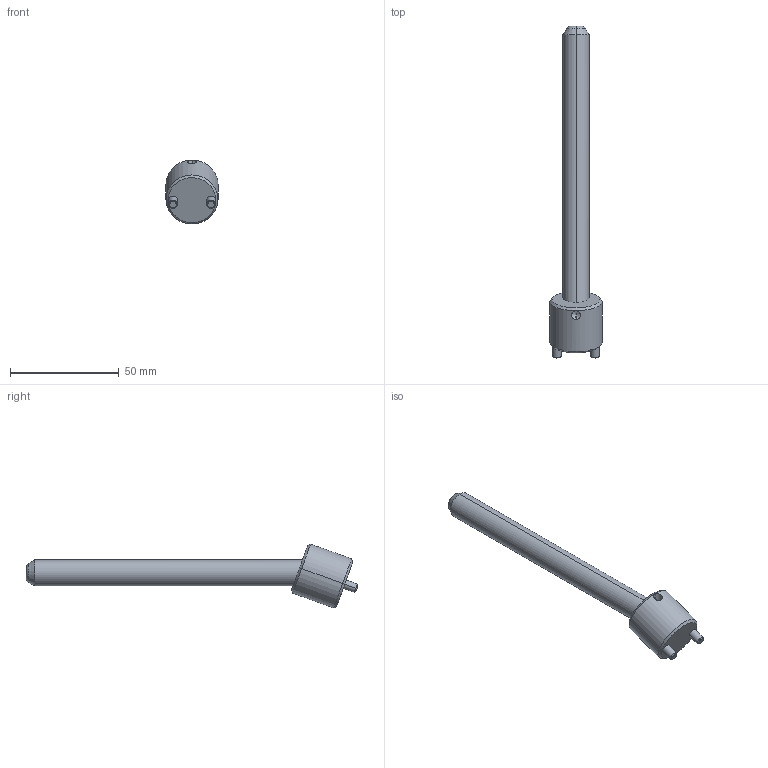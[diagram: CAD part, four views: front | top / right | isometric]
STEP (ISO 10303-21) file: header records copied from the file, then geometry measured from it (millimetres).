
FILE_DESCRIPTION(('CATIA V5 STEP Exchange'),'2;1');
FILE_NAME('C:\Users\Raffaele\Desktop\3D BOLEX\3D FILES CF BOLEX\19-INCLINED ASSEMBLY REF_CI\CI2012125.stp','2019-06-21T10:17:05+00:00',('none'),('none'),'CATIA Version 5 Release 20 GA (IN-10)','CATIA V5 STEP AP203','none');
FILE_SCHEMA(('CONFIG_CONTROL_DESIGN'));
Length unit declared in the file: millimetre
Products named in the file (1): CI2012125
Assembly tree (2 placements, depth 2):
  CI2012125
    #58
    #578
Bounding box: 24 x 152.68 x 29.39 mm (x, y, z)
Volume: 23855.5 mm3; surface area: 8899.2 mm2
Topology: 2 solids, 2 shells, 39 faces, 82 edges, 47 vertices
Faces by surface type: cone 14, cylinder 14, plane 7, torus 4
Entity records: 1464 total; most frequent: CARTESIAN_POINT 605, ORIENTED_EDGE 160, DIRECTION 145, EDGE_CURVE 80, AXIS2_PLACEMENT_3D 72, VERTEX_POINT 47, EDGE_LOOP 43, ADVANCED_FACE 39
